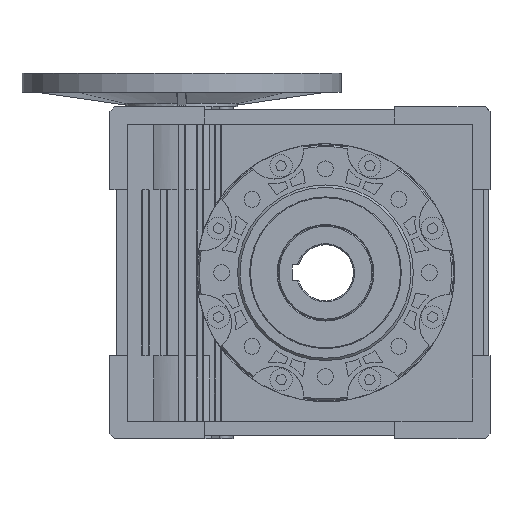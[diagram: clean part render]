
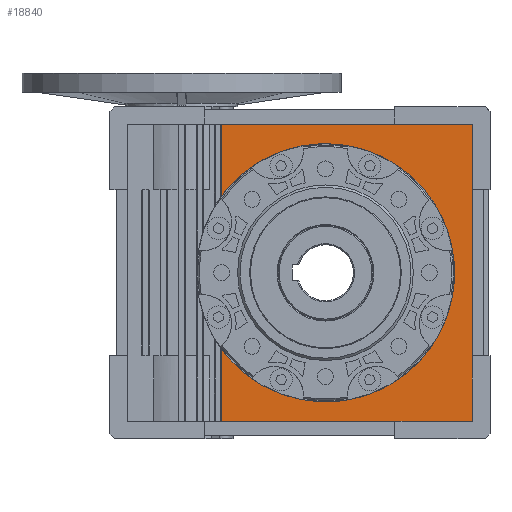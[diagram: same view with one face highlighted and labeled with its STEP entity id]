
A CAD part, left-side view. The second image highlights one B-rep face of the part: STEP entity #18840.
In plain terms, the highlighted planar face has unit normal (-1, 0, 0).
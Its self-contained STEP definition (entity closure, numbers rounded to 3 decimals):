
#930=PLANE('',#20416);
#1843=FACE_OUTER_BOUND('',#2964,.T.);
#2964=EDGE_LOOP('',(#15212,#15213,#15214,#15215,#15216,#15217));
#4319=LINE('',#29218,#6107);
#4402=LINE('',#29408,#6190);
#4561=LINE('',#29909,#6349);
#4592=LINE('',#30036,#6380);
#4594=LINE('',#30041,#6382);
#6107=VECTOR('',#23681,1000.);
#6190=VECTOR('',#23850,1000.);
#6349=VECTOR('',#24361,1000.);
#6380=VECTOR('',#24452,1000.);
#6382=VECTOR('',#24458,1000.);
#7551=CIRCLE('',#20417,80.8);
#8699=VERTEX_POINT('',#29215);
#8700=VERTEX_POINT('',#29217);
#8763=VERTEX_POINT('',#29405);
#8764=VERTEX_POINT('',#29407);
#8922=VERTEX_POINT('',#30035);
#8923=VERTEX_POINT('',#30039);
#10800=EDGE_CURVE('',#8699,#8700,#4319,.T.);
#10894=EDGE_CURVE('',#8763,#8764,#4402,.T.);
#11129=EDGE_CURVE('',#8764,#8699,#4561,.T.);
#11177=EDGE_CURVE('',#8922,#8700,#4592,.T.);
#11179=EDGE_CURVE('',#8922,#8923,#7551,.T.);
#11180=EDGE_CURVE('',#8763,#8923,#4594,.T.);
#15212=ORIENTED_EDGE('',*,*,#11179,.F.);
#15213=ORIENTED_EDGE('',*,*,#11177,.T.);
#15214=ORIENTED_EDGE('',*,*,#10800,.F.);
#15215=ORIENTED_EDGE('',*,*,#11129,.F.);
#15216=ORIENTED_EDGE('',*,*,#10894,.F.);
#15217=ORIENTED_EDGE('',*,*,#11180,.T.);
#18840=ADVANCED_FACE('',(#1843),#930,.F.);
#20416=AXIS2_PLACEMENT_3D('',#30038,#24454,#24455);
#20417=AXIS2_PLACEMENT_3D('',#30040,#24456,#24457);
#23681=DIRECTION('',(0.,1.,0.));
#23850=DIRECTION('',(0.,-1.,0.));
#24361=DIRECTION('',(0.,0.,-1.));
#24452=DIRECTION('',(0.,0.,-1.));
#24454=DIRECTION('center_axis',(1.,0.,0.));
#24455=DIRECTION('ref_axis',(0.,0.,
-1.));
#24456=DIRECTION('center_axis',(-1.,0.,0.));
#24457=DIRECTION('ref_axis',(0.,0.,
-1.));
#24458=DIRECTION('',(0.,0.,-1.));
#29215=CARTESIAN_POINT('',(-37.,-39.991,-436.433));
#29217=CARTESIAN_POINT('',(-37.,117.092,-436.433));
#29218=CARTESIAN_POINT('',(-37.,-39.991,-436.433));
#29405=CARTESIAN_POINT('',(-37.,117.092,-250.433));
#29407=CARTESIAN_POINT('',(-37.,-39.991,-250.433));
#29408=CARTESIAN_POINT('',(-37.,-39.991,-250.433));
#29909=CARTESIAN_POINT('',(-37.,-39.991,-250.433));
#30035=CARTESIAN_POINT('',(-37.,117.092,-391.316));
#30036=CARTESIAN_POINT('',(-37.,117.092,-436.433));
#30038=CARTESIAN_POINT('Origin',(-37.,-39.991,-436.433));
#30039=CARTESIAN_POINT('',(-37.,117.092,-295.55));
#30040=CARTESIAN_POINT('Origin',(-37.,52.009,-343.433));
#30041=CARTESIAN_POINT('',(-37.,117.092,-436.433));
